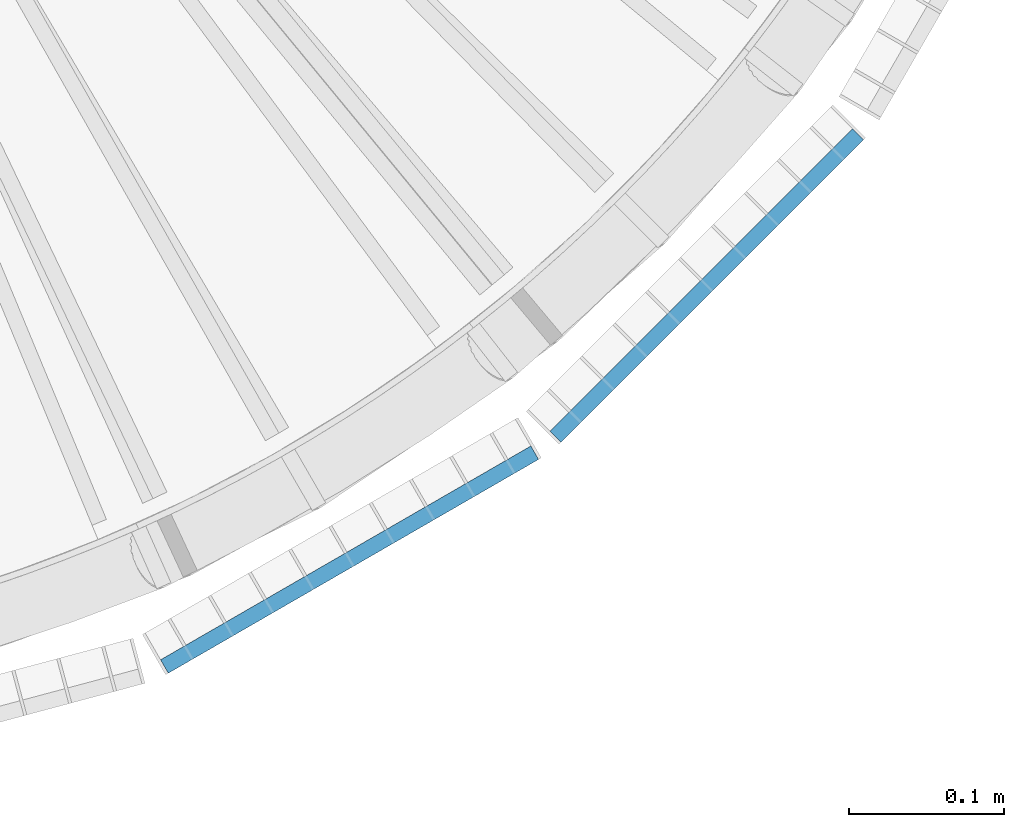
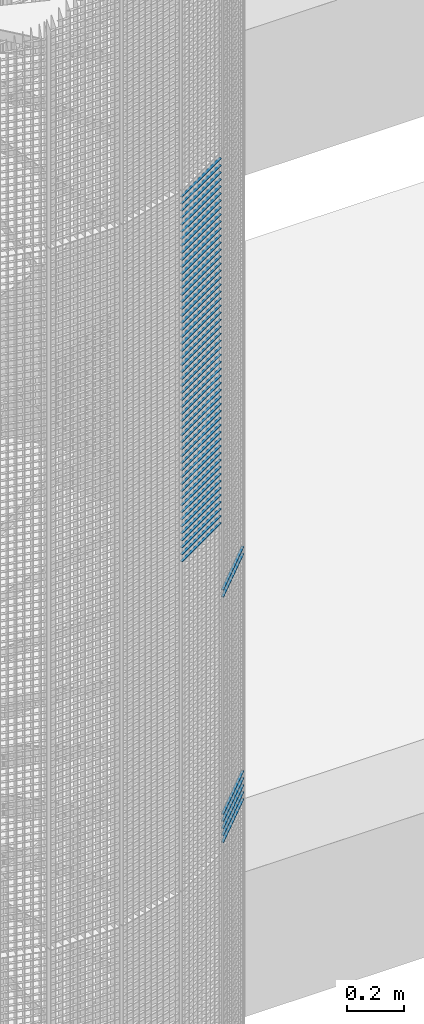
# One storey, part 238 of 1148: 60 beams, 2 elements without a shape of their own.
"""IFC2X3 building model written with IfcOpenShell, lengths in millimetres."""

from ifc_helpers import new_model, si_unit, frame, origin_with_axes, origin_2d_with_axis, place, context, subcontext, project, spatial, rectangle, extrude, material, type_object, element, aggregate, save


model = new_model("IFC2X3")

# Units and contexts
model_context = context("Model", 3, precision=1e-05, world=origin_with_axes())
body_context = subcontext(model_context, "Body", "Model", "MODEL_VIEW")
ifc_project = project(units=[si_unit("LENGTHUNIT", "METRE", prefix="MILLI"), si_unit("AREAUNIT", "SQUARE_METRE"), si_unit("VOLUMEUNIT", "CUBIC_METRE"), si_unit("MASSUNIT", "GRAM", prefix="KILO"), si_unit("TIMEUNIT", "SECOND"), si_unit("PLANEANGLEUNIT", "RADIAN"), si_unit("SOLIDANGLEUNIT", "STERADIAN"), si_unit("THERMODYNAMICTEMPERATUREUNIT", "DEGREE_CELSIUS"), si_unit("LUMINOUSINTENSITYUNIT", "LUMEN")], contexts=[model_context])

# Site, building, storey
site_placement = place(None, origin_with_axes())
site = spatial("IfcSite", under=ifc_project, at=site_placement, Name="Undefined", CompositionType="ELEMENT")
building_placement = place(site_placement, origin_with_axes())
building = spatial("IfcBuilding", under=site, at=building_placement, Name="Undefined", CompositionType="ELEMENT")
storey_placement = place(building_placement, origin_with_axes())
storey = spatial("IfcBuildingStorey", under=building, at=storey_placement, Name="Undefined", CompositionType="ELEMENT", Elevation=0.0)

# Assembly, beams
assembly_1_placement = place(storey_placement, origin_with_axes())
assembly_1 = element("IfcElementAssembly", 1, at=assembly_1_placement, inside=storey, Name="BORDURE", AssemblyPlace="NOTDEFINED", PredefinedType="NOTDEFINED")
ifc_material = material(Name="STEEL/S235JR")
beam_type = type_object("IfcBeamType", Name="PL2*10", PredefinedType="NOTDEFINED")
beam_1_placement = place(assembly_1_placement, frame((689.771348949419, -884.927168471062, 9150.0), z_axis=(0.707106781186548, -0.707106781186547, 0.0), x_axis=(0.707106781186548, 0.707106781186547, 0.0)))
beam_1 = element("IfcBeam", 2, at=beam_1_placement, type_object=beam_type, material=ifc_material, Name="ENTRETOISE", context=body_context, shape_type="SweptSolid", body=[
    extrude(rectangle(XDim=2.0, YDim=10.0, at=origin_2d_with_axis()), frame((275.999999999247, 9.09494701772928e-13, 1.53210777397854e-14), z_axis=(-1.0, 0.0, 0.0), x_axis=(0.0, -1.0, 0.0)), (0.0, 0.0, 1.0), 276.0),
])
beam_2_placement = place(assembly_1_placement, frame((689.771348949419, -884.927168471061, 9120.0), z_axis=(0.707106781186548, -0.707106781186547, 0.0), x_axis=(0.707106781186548, 0.707106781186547, 0.0)))
beam_2 = element("IfcBeam", 3, at=beam_2_placement, type_object=beam_type, material=ifc_material, Name="ENTRETOISE", context=body_context, shape_type="SweptSolid", body=[
    extrude(rectangle(XDim=2.0, YDim=10.0, at=origin_2d_with_axis()), frame((275.999999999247, 9.09494701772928e-13, 1.53210777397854e-14), z_axis=(-1.0, 0.0, 0.0), x_axis=(0.0, -1.0, 0.0)), (0.0, 0.0, 1.0), 276.0),
])
beam_3_placement = place(assembly_1_placement, frame((689.771348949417, -884.927168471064, 10080.0), z_axis=(0.707106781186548, -0.707106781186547, 0.0), x_axis=(0.707106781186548, 0.707106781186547, 0.0)))
beam_3 = element("IfcBeam", 4, at=beam_3_placement, type_object=beam_type, material=ifc_material, Name="ENTRETOISE", context=body_context, shape_type="SweptSolid", body=[
    extrude(rectangle(XDim=2.0, YDim=10.0, at=origin_2d_with_axis()), frame((275.999999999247, 9.09494701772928e-13, 1.53210777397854e-14), z_axis=(-1.0, 0.0, 0.0), x_axis=(0.0, -1.0, 0.0)), (0.0, 0.0, 1.0), 276.0),
])
beam_4_placement = place(assembly_1_placement, frame((689.771348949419, -884.927168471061, 9090.0), z_axis=(0.707106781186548, -0.707106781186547, 0.0), x_axis=(0.707106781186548, 0.707106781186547, 0.0)))
beam_4 = element("IfcBeam", 5, at=beam_4_placement, type_object=beam_type, material=ifc_material, Name="ENTRETOISE", context=body_context, shape_type="SweptSolid", body=[
    extrude(rectangle(XDim=2.0, YDim=10.0, at=origin_2d_with_axis()), frame((275.999999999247, 9.09494701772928e-13, 1.53210777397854e-14), z_axis=(-1.0, 0.0, 0.0), x_axis=(0.0, -1.0, 0.0)), (0.0, 0.0, 1.0), 276.0),
])
beam_5_placement = place(assembly_1_placement, frame((689.771348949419, -884.927168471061, 9060.0), z_axis=(0.707106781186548, -0.707106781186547, 0.0), x_axis=(0.707106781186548, 0.707106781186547, 0.0)))
beam_5 = element("IfcBeam", 6, at=beam_5_placement, type_object=beam_type, material=ifc_material, Name="ENTRETOISE", context=body_context, shape_type="SweptSolid", body=[
    extrude(rectangle(XDim=2.0, YDim=10.0, at=origin_2d_with_axis()), frame((275.999999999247, 9.09494701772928e-13, 1.53210777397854e-14), z_axis=(-1.0, 0.0, 0.0), x_axis=(0.0, -1.0, 0.0)), (0.0, 0.0, 1.0), 276.0),
])
beam_6_placement = place(assembly_1_placement, frame((689.771348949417, -884.927168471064, 10110.0), z_axis=(0.707106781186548, -0.707106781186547, 0.0), x_axis=(0.707106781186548, 0.707106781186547, 0.0)))
beam_6 = element("IfcBeam", 7, at=beam_6_placement, type_object=beam_type, material=ifc_material, Name="ENTRETOISE", context=body_context, shape_type="SweptSolid", body=[
    extrude(rectangle(XDim=2.0, YDim=10.0, at=origin_2d_with_axis()), frame((275.999999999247, 9.09494701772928e-13, 1.53210777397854e-14), z_axis=(-1.0, 0.0, 0.0), x_axis=(0.0, -1.0, 0.0)), (0.0, 0.0, 1.0), 276.0),
])
beam_7_placement = place(assembly_1_placement, frame((689.77134894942, -884.92716847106, 9030.0), z_axis=(0.707106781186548, -0.707106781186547, 0.0), x_axis=(0.707106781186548, 0.707106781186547, 0.0)))
beam_7 = element("IfcBeam", 8, at=beam_7_placement, type_object=beam_type, material=ifc_material, Name="ENTRETOISE", context=body_context, shape_type="SweptSolid", body=[
    extrude(rectangle(XDim=2.0, YDim=10.0, at=origin_2d_with_axis()), frame((275.999999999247, 9.09494701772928e-13, 1.53210777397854e-14), z_axis=(-1.0, 0.0, 0.0), x_axis=(0.0, -1.0, 0.0)), (0.0, 0.0, 1.0), 276.0),
])
aggregate(assembly_1, [beam_1, beam_2, beam_3, beam_4, beam_5, beam_6, beam_7])

assembly_2_placement = place(storey_placement, origin_with_axes())
assembly_2 = element("IfcElementAssembly", 9, at=assembly_2_placement, inside=storey, Name="BORDURE", AssemblyPlace="NOTDEFINED", PredefinedType="NOTDEFINED")
beam_8_placement = place(assembly_2_placement, frame((437.231955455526, -1033.29996828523, 11970.0), z_axis=(0.499999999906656, -0.866025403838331, 0.0), x_axis=(0.866025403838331, 0.499999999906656, 0.0)))
beam_8 = element("IfcBeam", 10, at=beam_8_placement, type_object=beam_type, material=ifc_material, Name="ENTRETOISE", context=body_context, shape_type="SweptSolid", body=[
    extrude(rectangle(XDim=2.0, YDim=10.0, at=origin_2d_with_axis()), frame((275.999999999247, 9.09494701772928e-13, 1.53210777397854e-14), z_axis=(-1.0, 0.0, 0.0), x_axis=(0.0, -1.0, 0.0)), (0.0, 0.0, 1.0), 276.0),
])
beam_9_placement = place(assembly_2_placement, frame((437.231955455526, -1033.29996828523, 11940.0), z_axis=(0.499999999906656, -0.866025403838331, 0.0), x_axis=(0.866025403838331, 0.499999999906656, 0.0)))
beam_9 = element("IfcBeam", 11, at=beam_9_placement, type_object=beam_type, material=ifc_material, Name="ENTRETOISE", context=body_context, shape_type="SweptSolid", body=[
    extrude(rectangle(XDim=2.0, YDim=10.0, at=origin_2d_with_axis()), frame((275.999999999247, 9.09494701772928e-13, 1.53210777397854e-14), z_axis=(-1.0, 0.0, 0.0), x_axis=(0.0, -1.0, 0.0)), (0.0, 0.0, 1.0), 276.0),
])
beam_10_placement = place(assembly_2_placement, frame((437.231955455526, -1033.29996828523, 11910.0), z_axis=(0.499999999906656, -0.866025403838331, 0.0), x_axis=(0.866025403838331, 0.499999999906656, 0.0)))
beam_10 = element("IfcBeam", 12, at=beam_10_placement, type_object=beam_type, material=ifc_material, Name="ENTRETOISE", context=body_context, shape_type="SweptSolid", body=[
    extrude(rectangle(XDim=2.0, YDim=10.0, at=origin_2d_with_axis()), frame((275.999999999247, 9.09494701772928e-13, 1.53210777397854e-14), z_axis=(-1.0, 0.0, 0.0), x_axis=(0.0, -1.0, 0.0)), (0.0, 0.0, 1.0), 276.0),
])
beam_11_placement = place(assembly_2_placement, frame((437.231955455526, -1033.29996828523, 11880.0), z_axis=(0.499999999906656, -0.866025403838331, 0.0), x_axis=(0.866025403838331, 0.499999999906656, 0.0)))
beam_11 = element("IfcBeam", 13, at=beam_11_placement, type_object=beam_type, material=ifc_material, Name="ENTRETOISE", context=body_context, shape_type="SweptSolid", body=[
    extrude(rectangle(XDim=2.0, YDim=10.0, at=origin_2d_with_axis()), frame((275.999999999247, 9.09494701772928e-13, 1.53210777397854e-14), z_axis=(-1.0, 0.0, 0.0), x_axis=(0.0, -1.0, 0.0)), (0.0, 0.0, 1.0), 276.0),
])
beam_12_placement = place(assembly_2_placement, frame((437.231955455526, -1033.29996828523, 11850.0), z_axis=(0.499999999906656, -0.866025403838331, 0.0), x_axis=(0.866025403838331, 0.499999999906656, 0.0)))
beam_12 = element("IfcBeam", 14, at=beam_12_placement, type_object=beam_type, material=ifc_material, Name="ENTRETOISE", context=body_context, shape_type="SweptSolid", body=[
    extrude(rectangle(XDim=2.0, YDim=10.0, at=origin_2d_with_axis()), frame((275.999999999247, 9.09494701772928e-13, 1.53210777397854e-14), z_axis=(-1.0, 0.0, 0.0), x_axis=(0.0, -1.0, 0.0)), (0.0, 0.0, 1.0), 276.0),
])
beam_13_placement = place(assembly_2_placement, frame((437.231955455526, -1033.29996828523, 11820.0), z_axis=(0.499999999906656, -0.866025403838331, 0.0), x_axis=(0.866025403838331, 0.499999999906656, 0.0)))
beam_13 = element("IfcBeam", 15, at=beam_13_placement, type_object=beam_type, material=ifc_material, Name="ENTRETOISE", context=body_context, shape_type="SweptSolid", body=[
    extrude(rectangle(XDim=2.0, YDim=10.0, at=origin_2d_with_axis()), frame((275.999999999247, 9.09494701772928e-13, 1.53210777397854e-14), z_axis=(-1.0, 0.0, 0.0), x_axis=(0.0, -1.0, 0.0)), (0.0, 0.0, 1.0), 276.0),
])
beam_14_placement = place(assembly_2_placement, frame((437.231955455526, -1033.29996828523, 11790.0), z_axis=(0.499999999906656, -0.866025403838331, 0.0), x_axis=(0.866025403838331, 0.499999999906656, 0.0)))
beam_14 = element("IfcBeam", 16, at=beam_14_placement, type_object=beam_type, material=ifc_material, Name="ENTRETOISE", context=body_context, shape_type="SweptSolid", body=[
    extrude(rectangle(XDim=2.0, YDim=10.0, at=origin_2d_with_axis()), frame((275.999999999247, 9.09494701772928e-13, 1.53210777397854e-14), z_axis=(-1.0, 0.0, 0.0), x_axis=(0.0, -1.0, 0.0)), (0.0, 0.0, 1.0), 276.0),
])
beam_15_placement = place(assembly_2_placement, frame((437.231955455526, -1033.29996828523, 11760.0), z_axis=(0.499999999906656, -0.866025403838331, 0.0), x_axis=(0.866025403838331, 0.499999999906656, 0.0)))
beam_15 = element("IfcBeam", 17, at=beam_15_placement, type_object=beam_type, material=ifc_material, Name="ENTRETOISE", context=body_context, shape_type="SweptSolid", body=[
    extrude(rectangle(XDim=2.0, YDim=10.0, at=origin_2d_with_axis()), frame((275.999999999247, 9.09494701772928e-13, 1.53210777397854e-14), z_axis=(-1.0, 0.0, 0.0), x_axis=(0.0, -1.0, 0.0)), (0.0, 0.0, 1.0), 276.0),
])
beam_16_placement = place(assembly_2_placement, frame((437.231955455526, -1033.29996828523, 11730.0), z_axis=(0.499999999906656, -0.866025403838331, 0.0), x_axis=(0.866025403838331, 0.499999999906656, 0.0)))
beam_16 = element("IfcBeam", 18, at=beam_16_placement, type_object=beam_type, material=ifc_material, Name="ENTRETOISE", context=body_context, shape_type="SweptSolid", body=[
    extrude(rectangle(XDim=2.0, YDim=10.0, at=origin_2d_with_axis()), frame((275.999999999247, 9.09494701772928e-13, 1.53210777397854e-14), z_axis=(-1.0, 0.0, 0.0), x_axis=(0.0, -1.0, 0.0)), (0.0, 0.0, 1.0), 276.0),
])
beam_17_placement = place(assembly_2_placement, frame((437.231955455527, -1033.29996828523, 11700.0), z_axis=(0.499999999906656, -0.866025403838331, 0.0), x_axis=(0.866025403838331, 0.499999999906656, 0.0)))
beam_17 = element("IfcBeam", 19, at=beam_17_placement, type_object=beam_type, material=ifc_material, Name="ENTRETOISE", context=body_context, shape_type="SweptSolid", body=[
    extrude(rectangle(XDim=2.0, YDim=10.0, at=origin_2d_with_axis()), frame((275.999999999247, 9.09494701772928e-13, 1.53210777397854e-14), z_axis=(-1.0, 0.0, 0.0), x_axis=(0.0, -1.0, 0.0)), (0.0, 0.0, 1.0), 276.0),
])
beam_18_placement = place(assembly_2_placement, frame((437.231955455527, -1033.29996828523, 11670.0), z_axis=(0.499999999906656, -0.866025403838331, 0.0), x_axis=(0.866025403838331, 0.499999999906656, 0.0)))
beam_18 = element("IfcBeam", 20, at=beam_18_placement, type_object=beam_type, material=ifc_material, Name="ENTRETOISE", context=body_context, shape_type="SweptSolid", body=[
    extrude(rectangle(XDim=2.0, YDim=10.0, at=origin_2d_with_axis()), frame((275.999999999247, 9.09494701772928e-13, 1.53210777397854e-14), z_axis=(-1.0, 0.0, 0.0), x_axis=(0.0, -1.0, 0.0)), (0.0, 0.0, 1.0), 276.0),
])
beam_19_placement = place(assembly_2_placement, frame((437.231955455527, -1033.29996828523, 11640.0), z_axis=(0.499999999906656, -0.866025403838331, 0.0), x_axis=(0.866025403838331, 0.499999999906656, 0.0)))
beam_19 = element("IfcBeam", 21, at=beam_19_placement, type_object=beam_type, material=ifc_material, Name="ENTRETOISE", context=body_context, shape_type="SweptSolid", body=[
    extrude(rectangle(XDim=2.0, YDim=10.0, at=origin_2d_with_axis()), frame((275.999999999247, 9.09494701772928e-13, 1.53210777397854e-14), z_axis=(-1.0, 0.0, 0.0), x_axis=(0.0, -1.0, 0.0)), (0.0, 0.0, 1.0), 276.0),
])
beam_20_placement = place(assembly_2_placement, frame((437.231955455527, -1033.29996828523, 11610.0), z_axis=(0.499999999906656, -0.866025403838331, 0.0), x_axis=(0.866025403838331, 0.499999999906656, 0.0)))
beam_20 = element("IfcBeam", 22, at=beam_20_placement, type_object=beam_type, material=ifc_material, Name="ENTRETOISE", context=body_context, shape_type="SweptSolid", body=[
    extrude(rectangle(XDim=2.0, YDim=10.0, at=origin_2d_with_axis()), frame((275.999999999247, 9.09494701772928e-13, 1.53210777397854e-14), z_axis=(-1.0, 0.0, 0.0), x_axis=(0.0, -1.0, 0.0)), (0.0, 0.0, 1.0), 276.0),
])
beam_21_placement = place(assembly_2_placement, frame((437.231955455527, -1033.29996828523, 11580.0), z_axis=(0.499999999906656, -0.866025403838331, 0.0), x_axis=(0.866025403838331, 0.499999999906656, 0.0)))
beam_21 = element("IfcBeam", 23, at=beam_21_placement, type_object=beam_type, material=ifc_material, Name="ENTRETOISE", context=body_context, shape_type="SweptSolid", body=[
    extrude(rectangle(XDim=2.0, YDim=10.0, at=origin_2d_with_axis()), frame((275.999999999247, 9.09494701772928e-13, 1.53210777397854e-14), z_axis=(-1.0, 0.0, 0.0), x_axis=(0.0, -1.0, 0.0)), (0.0, 0.0, 1.0), 276.0),
])
beam_22_placement = place(assembly_2_placement, frame((437.231955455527, -1033.29996828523, 11550.0), z_axis=(0.499999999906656, -0.866025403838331, 0.0), x_axis=(0.866025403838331, 0.499999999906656, 0.0)))
beam_22 = element("IfcBeam", 24, at=beam_22_placement, type_object=beam_type, material=ifc_material, Name="ENTRETOISE", context=body_context, shape_type="SweptSolid", body=[
    extrude(rectangle(XDim=2.0, YDim=10.0, at=origin_2d_with_axis()), frame((275.999999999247, 9.09494701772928e-13, 1.53210777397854e-14), z_axis=(-1.0, 0.0, 0.0), x_axis=(0.0, -1.0, 0.0)), (0.0, 0.0, 1.0), 276.0),
])
beam_23_placement = place(assembly_2_placement, frame((437.231955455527, -1033.29996828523, 11520.0), z_axis=(0.499999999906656, -0.866025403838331, 0.0), x_axis=(0.866025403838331, 0.499999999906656, 0.0)))
beam_23 = element("IfcBeam", 25, at=beam_23_placement, type_object=beam_type, material=ifc_material, Name="ENTRETOISE", context=body_context, shape_type="SweptSolid", body=[
    extrude(rectangle(XDim=2.0, YDim=10.0, at=origin_2d_with_axis()), frame((275.999999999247, 9.09494701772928e-13, 1.53210777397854e-14), z_axis=(-1.0, 0.0, 0.0), x_axis=(0.0, -1.0, 0.0)), (0.0, 0.0, 1.0), 276.0),
])
beam_24_placement = place(assembly_2_placement, frame((437.231955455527, -1033.29996828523, 11490.0), z_axis=(0.499999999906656, -0.866025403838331, 0.0), x_axis=(0.866025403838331, 0.499999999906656, 0.0)))
beam_24 = element("IfcBeam", 26, at=beam_24_placement, type_object=beam_type, material=ifc_material, Name="ENTRETOISE", context=body_context, shape_type="SweptSolid", body=[
    extrude(rectangle(XDim=2.0, YDim=10.0, at=origin_2d_with_axis()), frame((275.999999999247, 9.09494701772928e-13, 1.53210777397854e-14), z_axis=(-1.0, 0.0, 0.0), x_axis=(0.0, -1.0, 0.0)), (0.0, 0.0, 1.0), 276.0),
])
beam_25_placement = place(assembly_2_placement, frame((437.231955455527, -1033.29996828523, 11460.0), z_axis=(0.499999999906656, -0.866025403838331, 0.0), x_axis=(0.866025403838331, 0.499999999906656, 0.0)))
beam_25 = element("IfcBeam", 27, at=beam_25_placement, type_object=beam_type, material=ifc_material, Name="ENTRETOISE", context=body_context, shape_type="SweptSolid", body=[
    extrude(rectangle(XDim=2.0, YDim=10.0, at=origin_2d_with_axis()), frame((275.999999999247, 9.09494701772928e-13, 1.53210777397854e-14), z_axis=(-1.0, 0.0, 0.0), x_axis=(0.0, -1.0, 0.0)), (0.0, 0.0, 1.0), 276.0),
])
beam_26_placement = place(assembly_2_placement, frame((437.231955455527, -1033.29996828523, 11430.0), z_axis=(0.499999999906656, -0.866025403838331, 0.0), x_axis=(0.866025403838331, 0.499999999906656, 0.0)))
beam_26 = element("IfcBeam", 28, at=beam_26_placement, type_object=beam_type, material=ifc_material, Name="ENTRETOISE", context=body_context, shape_type="SweptSolid", body=[
    extrude(rectangle(XDim=2.0, YDim=10.0, at=origin_2d_with_axis()), frame((275.999999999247, 9.09494701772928e-13, 1.53210777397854e-14), z_axis=(-1.0, 0.0, 0.0), x_axis=(0.0, -1.0, 0.0)), (0.0, 0.0, 1.0), 276.0),
])
beam_27_placement = place(assembly_2_placement, frame((437.231955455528, -1033.29996828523, 11400.0), z_axis=(0.499999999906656, -0.866025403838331, 0.0), x_axis=(0.866025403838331, 0.499999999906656, 0.0)))
beam_27 = element("IfcBeam", 29, at=beam_27_placement, type_object=beam_type, material=ifc_material, Name="ENTRETOISE", context=body_context, shape_type="SweptSolid", body=[
    extrude(rectangle(XDim=2.0, YDim=10.0, at=origin_2d_with_axis()), frame((275.999999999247, 9.09494701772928e-13, 1.53210777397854e-14), z_axis=(-1.0, 0.0, 0.0), x_axis=(0.0, -1.0, 0.0)), (0.0, 0.0, 1.0), 276.0),
])
beam_28_placement = place(assembly_2_placement, frame((437.231955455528, -1033.29996828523, 11370.0), z_axis=(0.499999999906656, -0.866025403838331, 0.0), x_axis=(0.866025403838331, 0.499999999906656, 0.0)))
beam_28 = element("IfcBeam", 30, at=beam_28_placement, type_object=beam_type, material=ifc_material, Name="ENTRETOISE", context=body_context, shape_type="SweptSolid", body=[
    extrude(rectangle(XDim=2.0, YDim=10.0, at=origin_2d_with_axis()), frame((275.999999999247, 9.09494701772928e-13, 1.53210777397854e-14), z_axis=(-1.0, 0.0, 0.0), x_axis=(0.0, -1.0, 0.0)), (0.0, 0.0, 1.0), 276.0),
])
beam_29_placement = place(assembly_2_placement, frame((437.231955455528, -1033.29996828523, 11340.0), z_axis=(0.499999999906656, -0.866025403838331, 0.0), x_axis=(0.866025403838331, 0.499999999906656, 0.0)))
beam_29 = element("IfcBeam", 31, at=beam_29_placement, type_object=beam_type, material=ifc_material, Name="ENTRETOISE", context=body_context, shape_type="SweptSolid", body=[
    extrude(rectangle(XDim=2.0, YDim=10.0, at=origin_2d_with_axis()), frame((275.999999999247, 9.09494701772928e-13, 1.53210777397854e-14), z_axis=(-1.0, 0.0, 0.0), x_axis=(0.0, -1.0, 0.0)), (0.0, 0.0, 1.0), 276.0),
])
beam_30_placement = place(assembly_2_placement, frame((437.231955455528, -1033.29996828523, 11310.0), z_axis=(0.499999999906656, -0.866025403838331, 0.0), x_axis=(0.866025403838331, 0.499999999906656, 0.0)))
beam_30 = element("IfcBeam", 32, at=beam_30_placement, type_object=beam_type, material=ifc_material, Name="ENTRETOISE", context=body_context, shape_type="SweptSolid", body=[
    extrude(rectangle(XDim=2.0, YDim=10.0, at=origin_2d_with_axis()), frame((275.999999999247, 9.09494701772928e-13, 1.53210777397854e-14), z_axis=(-1.0, 0.0, 0.0), x_axis=(0.0, -1.0, 0.0)), (0.0, 0.0, 1.0), 276.0),
])
beam_31_placement = place(assembly_2_placement, frame((437.231955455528, -1033.29996828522, 11280.0), z_axis=(0.499999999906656, -0.866025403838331, 0.0), x_axis=(0.866025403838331, 0.499999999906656, 0.0)))
beam_31 = element("IfcBeam", 33, at=beam_31_placement, type_object=beam_type, material=ifc_material, Name="ENTRETOISE", context=body_context, shape_type="SweptSolid", body=[
    extrude(rectangle(XDim=2.0, YDim=10.0, at=origin_2d_with_axis()), frame((275.999999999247, 9.09494701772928e-13, 1.53210777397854e-14), z_axis=(-1.0, 0.0, 0.0), x_axis=(0.0, -1.0, 0.0)), (0.0, 0.0, 1.0), 276.0),
])
beam_32_placement = place(assembly_2_placement, frame((437.231955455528, -1033.29996828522, 11250.0), z_axis=(0.499999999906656, -0.866025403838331, 0.0), x_axis=(0.866025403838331, 0.499999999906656, 0.0)))
beam_32 = element("IfcBeam", 34, at=beam_32_placement, type_object=beam_type, material=ifc_material, Name="ENTRETOISE", context=body_context, shape_type="SweptSolid", body=[
    extrude(rectangle(XDim=2.0, YDim=10.0, at=origin_2d_with_axis()), frame((275.999999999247, 9.09494701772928e-13, 1.53210777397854e-14), z_axis=(-1.0, 0.0, 0.0), x_axis=(0.0, -1.0, 0.0)), (0.0, 0.0, 1.0), 276.0),
])
beam_33_placement = place(assembly_2_placement, frame((437.231955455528, -1033.29996828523, 11220.0), z_axis=(0.499999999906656, -0.866025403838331, 0.0), x_axis=(0.866025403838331, 0.499999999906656, 0.0)))
beam_33 = element("IfcBeam", 35, at=beam_33_placement, type_object=beam_type, material=ifc_material, Name="ENTRETOISE", context=body_context, shape_type="SweptSolid", body=[
    extrude(rectangle(XDim=2.0, YDim=10.0, at=origin_2d_with_axis()), frame((275.999999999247, 9.09494701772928e-13, 1.53210777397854e-14), z_axis=(-1.0, 0.0, 0.0), x_axis=(0.0, -1.0, 0.0)), (0.0, 0.0, 1.0), 276.0),
])
beam_34_placement = place(assembly_2_placement, frame((437.231955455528, -1033.29996828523, 11190.0), z_axis=(0.499999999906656, -0.866025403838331, 0.0), x_axis=(0.866025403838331, 0.499999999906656, 0.0)))
beam_34 = element("IfcBeam", 36, at=beam_34_placement, type_object=beam_type, material=ifc_material, Name="ENTRETOISE", context=body_context, shape_type="SweptSolid", body=[
    extrude(rectangle(XDim=2.0, YDim=10.0, at=origin_2d_with_axis()), frame((275.999999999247, 9.09494701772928e-13, 1.53210777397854e-14), z_axis=(-1.0, 0.0, 0.0), x_axis=(0.0, -1.0, 0.0)), (0.0, 0.0, 1.0), 276.0),
])
beam_35_placement = place(assembly_2_placement, frame((437.231955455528, -1033.29996828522, 11160.0), z_axis=(0.499999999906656, -0.866025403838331, 0.0), x_axis=(0.866025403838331, 0.499999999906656, 0.0)))
beam_35 = element("IfcBeam", 37, at=beam_35_placement, type_object=beam_type, material=ifc_material, Name="ENTRETOISE", context=body_context, shape_type="SweptSolid", body=[
    extrude(rectangle(XDim=2.0, YDim=10.0, at=origin_2d_with_axis()), frame((275.999999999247, 9.09494701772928e-13, 1.53210777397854e-14), z_axis=(-1.0, 0.0, 0.0), x_axis=(0.0, -1.0, 0.0)), (0.0, 0.0, 1.0), 276.0),
])
beam_36_placement = place(assembly_2_placement, frame((437.231955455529, -1033.29996828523, 11130.0), z_axis=(0.499999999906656, -0.866025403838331, 0.0), x_axis=(0.866025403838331, 0.499999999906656, 0.0)))
beam_36 = element("IfcBeam", 38, at=beam_36_placement, type_object=beam_type, material=ifc_material, Name="ENTRETOISE", context=body_context, shape_type="SweptSolid", body=[
    extrude(rectangle(XDim=2.0, YDim=10.0, at=origin_2d_with_axis()), frame((275.999999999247, 9.09494701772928e-13, 1.53210777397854e-14), z_axis=(-1.0, 0.0, 0.0), x_axis=(0.0, -1.0, 0.0)), (0.0, 0.0, 1.0), 276.0),
])
beam_37_placement = place(assembly_2_placement, frame((437.231955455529, -1033.29996828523, 11100.0), z_axis=(0.499999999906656, -0.866025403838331, 0.0), x_axis=(0.866025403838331, 0.499999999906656, 0.0)))
beam_37 = element("IfcBeam", 39, at=beam_37_placement, type_object=beam_type, material=ifc_material, Name="ENTRETOISE", context=body_context, shape_type="SweptSolid", body=[
    extrude(rectangle(XDim=2.0, YDim=10.0, at=origin_2d_with_axis()), frame((275.999999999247, 9.09494701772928e-13, 1.53210777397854e-14), z_axis=(-1.0, 0.0, 0.0), x_axis=(0.0, -1.0, 0.0)), (0.0, 0.0, 1.0), 276.0),
])
beam_38_placement = place(assembly_2_placement, frame((437.231955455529, -1033.29996828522, 11070.0), z_axis=(0.499999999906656, -0.866025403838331, 0.0), x_axis=(0.866025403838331, 0.499999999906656, 0.0)))
beam_38 = element("IfcBeam", 40, at=beam_38_placement, type_object=beam_type, material=ifc_material, Name="ENTRETOISE", context=body_context, shape_type="SweptSolid", body=[
    extrude(rectangle(XDim=2.0, YDim=10.0, at=origin_2d_with_axis()), frame((275.999999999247, 9.09494701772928e-13, 1.53210777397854e-14), z_axis=(-1.0, 0.0, 0.0), x_axis=(0.0, -1.0, 0.0)), (0.0, 0.0, 1.0), 276.0),
])
beam_39_placement = place(assembly_2_placement, frame((437.231955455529, -1033.29996828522, 11040.0), z_axis=(0.499999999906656, -0.866025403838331, 0.0), x_axis=(0.866025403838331, 0.499999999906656, 0.0)))
beam_39 = element("IfcBeam", 41, at=beam_39_placement, type_object=beam_type, material=ifc_material, Name="ENTRETOISE", context=body_context, shape_type="SweptSolid", body=[
    extrude(rectangle(XDim=2.0, YDim=10.0, at=origin_2d_with_axis()), frame((275.999999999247, 9.09494701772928e-13, 1.53210777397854e-14), z_axis=(-1.0, 0.0, 0.0), x_axis=(0.0, -1.0, 0.0)), (0.0, 0.0, 1.0), 276.0),
])
beam_40_placement = place(assembly_2_placement, frame((437.231955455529, -1033.29996828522, 11010.0), z_axis=(0.499999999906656, -0.866025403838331, 0.0), x_axis=(0.866025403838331, 0.499999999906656, 0.0)))
beam_40 = element("IfcBeam", 42, at=beam_40_placement, type_object=beam_type, material=ifc_material, Name="ENTRETOISE", context=body_context, shape_type="SweptSolid", body=[
    extrude(rectangle(XDim=2.0, YDim=10.0, at=origin_2d_with_axis()), frame((275.999999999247, 9.09494701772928e-13, 1.53210777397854e-14), z_axis=(-1.0, 0.0, 0.0), x_axis=(0.0, -1.0, 0.0)), (0.0, 0.0, 1.0), 276.0),
])
beam_41_placement = place(assembly_2_placement, frame((437.231955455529, -1033.29996828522, 10980.0), z_axis=(0.499999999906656, -0.866025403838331, 0.0), x_axis=(0.866025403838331, 0.499999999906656, 0.0)))
beam_41 = element("IfcBeam", 43, at=beam_41_placement, type_object=beam_type, material=ifc_material, Name="ENTRETOISE", context=body_context, shape_type="SweptSolid", body=[
    extrude(rectangle(XDim=2.0, YDim=10.0, at=origin_2d_with_axis()), frame((275.999999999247, 9.09494701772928e-13, 1.53210777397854e-14), z_axis=(-1.0, 0.0, 0.0), x_axis=(0.0, -1.0, 0.0)), (0.0, 0.0, 1.0), 276.0),
])
beam_42_placement = place(assembly_2_placement, frame((437.231955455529, -1033.29996828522, 10950.0), z_axis=(0.499999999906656, -0.866025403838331, 0.0), x_axis=(0.866025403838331, 0.499999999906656, 0.0)))
beam_42 = element("IfcBeam", 44, at=beam_42_placement, type_object=beam_type, material=ifc_material, Name="ENTRETOISE", context=body_context, shape_type="SweptSolid", body=[
    extrude(rectangle(XDim=2.0, YDim=10.0, at=origin_2d_with_axis()), frame((275.999999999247, 9.09494701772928e-13, 1.53210777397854e-14), z_axis=(-1.0, 0.0, 0.0), x_axis=(0.0, -1.0, 0.0)), (0.0, 0.0, 1.0), 276.0),
])
beam_43_placement = place(assembly_2_placement, frame((437.231955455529, -1033.29996828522, 10920.0), z_axis=(0.499999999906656, -0.866025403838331, 0.0), x_axis=(0.866025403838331, 0.499999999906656, 0.0)))
beam_43 = element("IfcBeam", 45, at=beam_43_placement, type_object=beam_type, material=ifc_material, Name="ENTRETOISE", context=body_context, shape_type="SweptSolid", body=[
    extrude(rectangle(XDim=2.0, YDim=10.0, at=origin_2d_with_axis()), frame((275.999999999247, 9.09494701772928e-13, 1.53210777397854e-14), z_axis=(-1.0, 0.0, 0.0), x_axis=(0.0, -1.0, 0.0)), (0.0, 0.0, 1.0), 276.0),
])
beam_44_placement = place(assembly_2_placement, frame((437.231955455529, -1033.29996828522, 10890.0), z_axis=(0.499999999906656, -0.866025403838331, 0.0), x_axis=(0.866025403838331, 0.499999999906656, 0.0)))
beam_44 = element("IfcBeam", 46, at=beam_44_placement, type_object=beam_type, material=ifc_material, Name="ENTRETOISE", context=body_context, shape_type="SweptSolid", body=[
    extrude(rectangle(XDim=2.0, YDim=10.0, at=origin_2d_with_axis()), frame((275.999999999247, 9.09494701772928e-13, 1.53210777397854e-14), z_axis=(-1.0, 0.0, 0.0), x_axis=(0.0, -1.0, 0.0)), (0.0, 0.0, 1.0), 276.0),
])
beam_45_placement = place(assembly_2_placement, frame((437.231955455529, -1033.29996828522, 10860.0), z_axis=(0.499999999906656, -0.866025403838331, 0.0), x_axis=(0.866025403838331, 0.499999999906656, 0.0)))
beam_45 = element("IfcBeam", 47, at=beam_45_placement, type_object=beam_type, material=ifc_material, Name="ENTRETOISE", context=body_context, shape_type="SweptSolid", body=[
    extrude(rectangle(XDim=2.0, YDim=10.0, at=origin_2d_with_axis()), frame((275.999999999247, 9.09494701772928e-13, 1.53210777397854e-14), z_axis=(-1.0, 0.0, 0.0), x_axis=(0.0, -1.0, 0.0)), (0.0, 0.0, 1.0), 276.0),
])
beam_46_placement = place(assembly_2_placement, frame((437.231955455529, -1033.29996828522, 10830.0), z_axis=(0.499999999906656, -0.866025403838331, 0.0), x_axis=(0.866025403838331, 0.499999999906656, 0.0)))
beam_46 = element("IfcBeam", 48, at=beam_46_placement, type_object=beam_type, material=ifc_material, Name="ENTRETOISE", context=body_context, shape_type="SweptSolid", body=[
    extrude(rectangle(XDim=2.0, YDim=10.0, at=origin_2d_with_axis()), frame((275.999999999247, 9.09494701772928e-13, 1.53210777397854e-14), z_axis=(-1.0, 0.0, 0.0), x_axis=(0.0, -1.0, 0.0)), (0.0, 0.0, 1.0), 276.0),
])
beam_47_placement = place(assembly_2_placement, frame((437.231955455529, -1033.29996828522, 10800.0), z_axis=(0.499999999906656, -0.866025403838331, 0.0), x_axis=(0.866025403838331, 0.499999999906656, 0.0)))
beam_47 = element("IfcBeam", 49, at=beam_47_placement, type_object=beam_type, material=ifc_material, Name="ENTRETOISE", context=body_context, shape_type="SweptSolid", body=[
    extrude(rectangle(XDim=2.0, YDim=10.0, at=origin_2d_with_axis()), frame((275.999999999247, 9.09494701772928e-13, 1.53210777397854e-14), z_axis=(-1.0, 0.0, 0.0), x_axis=(0.0, -1.0, 0.0)), (0.0, 0.0, 1.0), 276.0),
])
beam_48_placement = place(assembly_2_placement, frame((437.231955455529, -1033.29996828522, 10770.0), z_axis=(0.499999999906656, -0.866025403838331, 0.0), x_axis=(0.866025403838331, 0.499999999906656, 0.0)))
beam_48 = element("IfcBeam", 50, at=beam_48_placement, type_object=beam_type, material=ifc_material, Name="ENTRETOISE", context=body_context, shape_type="SweptSolid", body=[
    extrude(rectangle(XDim=2.0, YDim=10.0, at=origin_2d_with_axis()), frame((275.999999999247, 9.09494701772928e-13, 1.53210777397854e-14), z_axis=(-1.0, 0.0, 0.0), x_axis=(0.0, -1.0, 0.0)), (0.0, 0.0, 1.0), 276.0),
])
beam_49_placement = place(assembly_2_placement, frame((437.23195545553, -1033.29996828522, 10740.0), z_axis=(0.499999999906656, -0.866025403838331, 0.0), x_axis=(0.866025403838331, 0.499999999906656, 0.0)))
beam_49 = element("IfcBeam", 51, at=beam_49_placement, type_object=beam_type, material=ifc_material, Name="ENTRETOISE", context=body_context, shape_type="SweptSolid", body=[
    extrude(rectangle(XDim=2.0, YDim=10.0, at=origin_2d_with_axis()), frame((275.999999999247, 9.09494701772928e-13, 1.53210777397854e-14), z_axis=(-1.0, 0.0, 0.0), x_axis=(0.0, -1.0, 0.0)), (0.0, 0.0, 1.0), 276.0),
])
beam_50_placement = place(assembly_2_placement, frame((437.23195545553, -1033.29996828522, 10710.0), z_axis=(0.499999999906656, -0.866025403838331, 0.0), x_axis=(0.866025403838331, 0.499999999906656, 0.0)))
beam_50 = element("IfcBeam", 52, at=beam_50_placement, type_object=beam_type, material=ifc_material, Name="ENTRETOISE", context=body_context, shape_type="SweptSolid", body=[
    extrude(rectangle(XDim=2.0, YDim=10.0, at=origin_2d_with_axis()), frame((275.999999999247, 9.09494701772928e-13, 1.53210777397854e-14), z_axis=(-1.0, 0.0, 0.0), x_axis=(0.0, -1.0, 0.0)), (0.0, 0.0, 1.0), 276.0),
])
beam_51_placement = place(assembly_2_placement, frame((437.23195545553, -1033.29996828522, 10680.0), z_axis=(0.499999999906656, -0.866025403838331, 0.0), x_axis=(0.866025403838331, 0.499999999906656, 0.0)))
beam_51 = element("IfcBeam", 53, at=beam_51_placement, type_object=beam_type, material=ifc_material, Name="ENTRETOISE", context=body_context, shape_type="SweptSolid", body=[
    extrude(rectangle(XDim=2.0, YDim=10.0, at=origin_2d_with_axis()), frame((275.999999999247, 9.09494701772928e-13, 1.53210777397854e-14), z_axis=(-1.0, 0.0, 0.0), x_axis=(0.0, -1.0, 0.0)), (0.0, 0.0, 1.0), 276.0),
])
beam_52_placement = place(assembly_2_placement, frame((437.23195545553, -1033.29996828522, 10650.0), z_axis=(0.499999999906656, -0.866025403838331, 0.0), x_axis=(0.866025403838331, 0.499999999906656, 0.0)))
beam_52 = element("IfcBeam", 54, at=beam_52_placement, type_object=beam_type, material=ifc_material, Name="ENTRETOISE", context=body_context, shape_type="SweptSolid", body=[
    extrude(rectangle(XDim=2.0, YDim=10.0, at=origin_2d_with_axis()), frame((275.999999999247, 9.09494701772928e-13, 1.53210777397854e-14), z_axis=(-1.0, 0.0, 0.0), x_axis=(0.0, -1.0, 0.0)), (0.0, 0.0, 1.0), 276.0),
])
beam_53_placement = place(assembly_2_placement, frame((437.23195545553, -1033.29996828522, 10620.0), z_axis=(0.499999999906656, -0.866025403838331, 0.0), x_axis=(0.866025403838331, 0.499999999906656, 0.0)))
beam_53 = element("IfcBeam", 55, at=beam_53_placement, type_object=beam_type, material=ifc_material, Name="ENTRETOISE", context=body_context, shape_type="SweptSolid", body=[
    extrude(rectangle(XDim=2.0, YDim=10.0, at=origin_2d_with_axis()), frame((275.999999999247, 9.09494701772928e-13, 1.53210777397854e-14), z_axis=(-1.0, 0.0, 0.0), x_axis=(0.0, -1.0, 0.0)), (0.0, 0.0, 1.0), 276.0),
])
beam_54_placement = place(assembly_2_placement, frame((437.23195545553, -1033.29996828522, 10590.0), z_axis=(0.499999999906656, -0.866025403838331, 0.0), x_axis=(0.866025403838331, 0.499999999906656, 0.0)))
beam_54 = element("IfcBeam", 56, at=beam_54_placement, type_object=beam_type, material=ifc_material, Name="ENTRETOISE", context=body_context, shape_type="SweptSolid", body=[
    extrude(rectangle(XDim=2.0, YDim=10.0, at=origin_2d_with_axis()), frame((275.999999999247, 9.09494701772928e-13, 1.53210777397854e-14), z_axis=(-1.0, 0.0, 0.0), x_axis=(0.0, -1.0, 0.0)), (0.0, 0.0, 1.0), 276.0),
])
beam_55_placement = place(assembly_2_placement, frame((437.23195545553, -1033.29996828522, 10560.0), z_axis=(0.499999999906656, -0.866025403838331, 0.0), x_axis=(0.866025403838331, 0.499999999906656, 0.0)))
beam_55 = element("IfcBeam", 57, at=beam_55_placement, type_object=beam_type, material=ifc_material, Name="ENTRETOISE", context=body_context, shape_type="SweptSolid", body=[
    extrude(rectangle(XDim=2.0, YDim=10.0, at=origin_2d_with_axis()), frame((275.999999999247, 9.09494701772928e-13, 1.53210777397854e-14), z_axis=(-1.0, 0.0, 0.0), x_axis=(0.0, -1.0, 0.0)), (0.0, 0.0, 1.0), 276.0),
])
beam_56_placement = place(assembly_2_placement, frame((437.23195545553, -1033.29996828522, 10530.0), z_axis=(0.499999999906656, -0.866025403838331, 0.0), x_axis=(0.866025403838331, 0.499999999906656, 0.0)))
beam_56 = element("IfcBeam", 58, at=beam_56_placement, type_object=beam_type, material=ifc_material, Name="ENTRETOISE", context=body_context, shape_type="SweptSolid", body=[
    extrude(rectangle(XDim=2.0, YDim=10.0, at=origin_2d_with_axis()), frame((275.999999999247, 9.09494701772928e-13, 1.53210777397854e-14), z_axis=(-1.0, 0.0, 0.0), x_axis=(0.0, -1.0, 0.0)), (0.0, 0.0, 1.0), 276.0),
])
beam_57_placement = place(assembly_2_placement, frame((437.23195545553, -1033.29996828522, 10500.0), z_axis=(0.499999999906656, -0.866025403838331, 0.0), x_axis=(0.866025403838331, 0.499999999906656, 0.0)))
beam_57 = element("IfcBeam", 59, at=beam_57_placement, type_object=beam_type, material=ifc_material, Name="ENTRETOISE", context=body_context, shape_type="SweptSolid", body=[
    extrude(rectangle(XDim=2.0, YDim=10.0, at=origin_2d_with_axis()), frame((275.999999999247, 9.09494701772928e-13, 1.53210777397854e-14), z_axis=(-1.0, 0.0, 0.0), x_axis=(0.0, -1.0, 0.0)), (0.0, 0.0, 1.0), 276.0),
])
beam_58_placement = place(assembly_2_placement, frame((437.231955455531, -1033.29996828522, 10470.0), z_axis=(0.499999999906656, -0.866025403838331, 0.0), x_axis=(0.866025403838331, 0.499999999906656, 0.0)))
beam_58 = element("IfcBeam", 60, at=beam_58_placement, type_object=beam_type, material=ifc_material, Name="ENTRETOISE", context=body_context, shape_type="SweptSolid", body=[
    extrude(rectangle(XDim=2.0, YDim=10.0, at=origin_2d_with_axis()), frame((275.999999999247, 9.09494701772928e-13, 1.53210777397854e-14), z_axis=(-1.0, 0.0, 0.0), x_axis=(0.0, -1.0, 0.0)), (0.0, 0.0, 1.0), 276.0),
])
beam_59_placement = place(assembly_2_placement, frame((437.231955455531, -1033.29996828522, 10440.0), z_axis=(0.499999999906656, -0.866025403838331, 0.0), x_axis=(0.866025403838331, 0.499999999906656, 0.0)))
beam_59 = element("IfcBeam", 61, at=beam_59_placement, type_object=beam_type, material=ifc_material, Name="ENTRETOISE", context=body_context, shape_type="SweptSolid", body=[
    extrude(rectangle(XDim=2.0, YDim=10.0, at=origin_2d_with_axis()), frame((275.999999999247, 9.09494701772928e-13, 1.53210777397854e-14), z_axis=(-1.0, 0.0, 0.0), x_axis=(0.0, -1.0, 0.0)), (0.0, 0.0, 1.0), 276.0),
])
beam_60_placement = place(assembly_2_placement, frame((437.231955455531, -1033.29996828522, 10410.0), z_axis=(0.499999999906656, -0.866025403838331, 0.0), x_axis=(0.866025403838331, 0.499999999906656, 0.0)))
beam_60 = element("IfcBeam", 62, at=beam_60_placement, type_object=beam_type, material=ifc_material, Name="ENTRETOISE", context=body_context, shape_type="SweptSolid", body=[
    extrude(rectangle(XDim=2.0, YDim=10.0, at=origin_2d_with_axis()), frame((275.999999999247, 9.09494701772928e-13, 1.53210777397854e-14), z_axis=(-1.0, 0.0, 0.0), x_axis=(0.0, -1.0, 0.0)), (0.0, 0.0, 1.0), 276.0),
])
aggregate(assembly_2, [beam_8, beam_9, beam_10, beam_11, beam_12, beam_13, beam_14, beam_15, beam_16, beam_17, beam_18, beam_19, beam_20, beam_21, beam_22, beam_23, beam_24, beam_25, beam_26, beam_27, beam_28, beam_29, beam_30, beam_31, beam_32, beam_33, beam_34, beam_35, beam_36, beam_37, beam_38, beam_39, beam_40, beam_41, beam_42, beam_43, beam_44, beam_45, beam_46, beam_47, beam_48, beam_49, beam_50, beam_51, beam_52, beam_53, beam_54, beam_55, beam_56, beam_57, beam_58, beam_59, beam_60])

save(model, "model.ifc")
